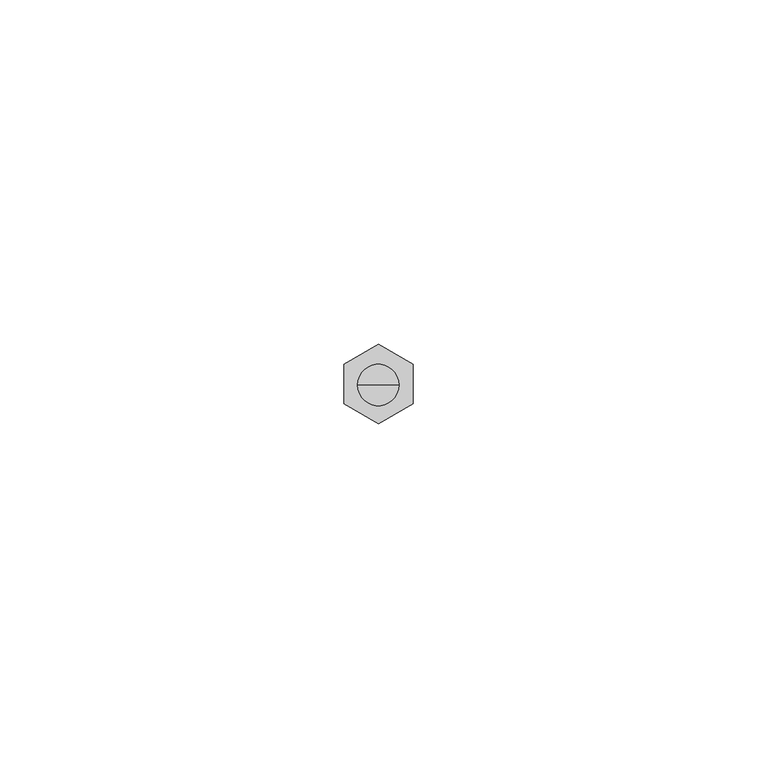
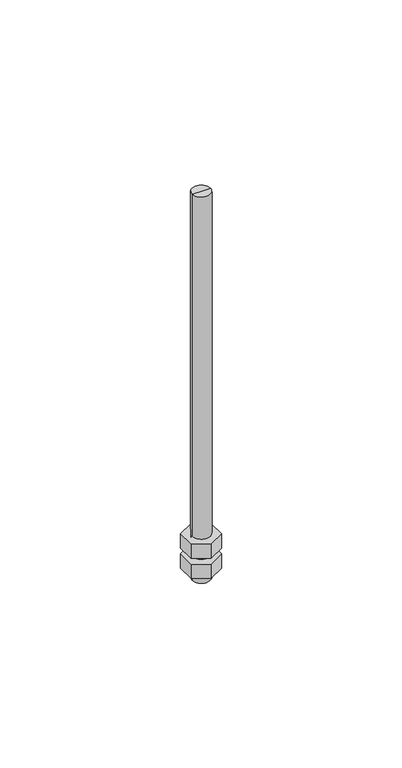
"""IFC4 building model written with IfcOpenShell, lengths in millimetres: proxy geometry, durlum_threaded_rod_M6 : durlum_threaded_rod_M6."""

from ifc_helpers import new_model, si_unit, frame, origin, origin_with_axes, place, context, project, spatial, polyline, circle_curve, outline, extrude, source, transform, mapped, element, save
from ifc_brep_helpers import plane_surface, cylinder_surface, advanced_brep


def generic_models_a920f71d(model_context):
    return source(origin(), model_context, "Body", "SolidModel", [
        extrude(outline(polyline([(5.0, 3.0421914), (5.0, -2.7313113), (0.0, -5.6180626), (-5.0, -2.7313113), (-5.0, 3.0421914), (0.0, 5.9289428), (5.0, 3.0421914)])), frame((0.0, 0.0, -7.0), z_axis=(0.0, 0.0, 1.0), x_axis=(1.0, 0.0, 0.0)), (0.0, 0.0, 1.0), 5.0),
        extrude(outline(polyline([(5.0, 3.0421914), (5.0, -2.7313113), (0.0, -5.6180626), (-5.0, -2.7313113), (-5.0, 3.0421914), (0.0, 5.9289428), (5.0, 3.0421914)])), origin_with_axes(), (0.0, 0.0, 1.0), 5.0),
        advanced_brep(
        [(-3.0, 0.0, 124.0), (3.0, 0.0, 124.0), (3.0, 0.0, -10.0), (-3.0, 0.0, -10.0), (0.0, 0.0, 124.0), (0.0, 0.0, -10.0)],
        [
            (0, 1, circle_curve(frame((0.0, 0.0, 124.0), z_axis=(0.0, 0.0, -1.0), x_axis=(1.0, 0.0, 0.0)), 3.0)),
            (1, 2),
            (2, 3, circle_curve(frame((0.0, 0.0, -10.0), z_axis=(0.0, 0.0, 1.0), x_axis=(1.0, 0.0, 0.0)), 3.0)),
            (3, 0),
            (1, 0, circle_curve(frame((0.0, 0.0, 124.0), z_axis=(0.0, 0.0, -1.0), x_axis=(1.0, 0.0, 0.0)), 3.0)),
            (3, 2, circle_curve(frame((0.0, 0.0, -10.0), z_axis=(0.0, 0.0, 1.0), x_axis=(1.0, 0.0, 0.0)), 3.0)),
            (4, 1),
            (0, 4),
            (2, 5),
            (5, 3),
        ],
        [
            cylinder_surface(frame((0.0, 0.0, -675.0), z_axis=(0.0, 0.0, 1.0), x_axis=(1.0, 0.0, 0.0)), 3.0),
            plane_surface(frame((0.0, 0.0, 124.0), z_axis=(0.0, 0.0, 1.0), x_axis=(1.0, 0.0, 0.0))),
            plane_surface(frame((0.0, 0.0, -10.0), z_axis=(0.0, 0.0, -1.0), x_axis=(1.0, 0.0, 0.0))),
        ],
        [
            (0, [[1, 2, 3, 4]]),
            (0, [[5, -4, 6, -2]]),
            (1, [[7, -1, 8]]),
            (1, [[-8, -5, -7]]),
            (2, [[-3, 9, 10]]),
            (2, [[-6, -10, -9]]),
        ],
    ),
    ])


if __name__ == "__main__":
    model = new_model("IFC4")
    model_context = context("Model", 3, world=origin())
    ifc_project = project(units=[si_unit("LENGTHUNIT", "METRE", prefix="MILLI")], contexts=[model_context])
    site = spatial("IfcSite", under=ifc_project)
    building = spatial("IfcBuilding", under=site)
    placement = place(None, origin())
    generic_models_shape = generic_models_a920f71d(model_context)
    element("IfcBuildingElementProxy", 1, Name="durlum_threaded_rod_M6 : durlum_threaded_rod_M6", ObjectType="durlum_threaded_rod_M6 : durlum_threaded_rod_M6", at=placement, inside=building, context=model_context, shape_type="MappedRepresentation", body=[
        mapped(generic_models_shape, transform((0.0, 0.0, 0.0), x_axis=(1.0, 0.0, 0.0), y_axis=(0.0, 1.0, 0.0), z_axis=(0.0, 0.0, 1.0))),
    ])
    save(model, "model.ifc")
